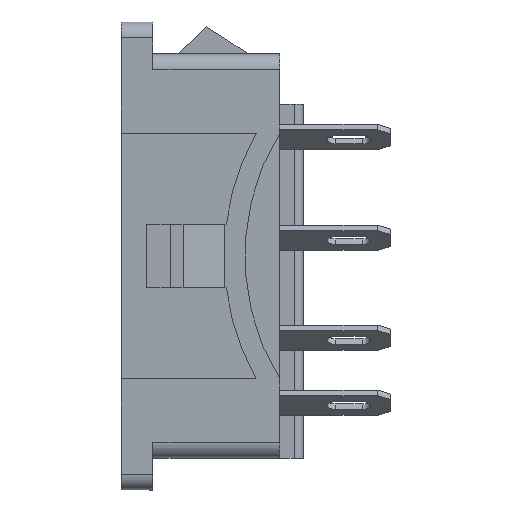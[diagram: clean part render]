
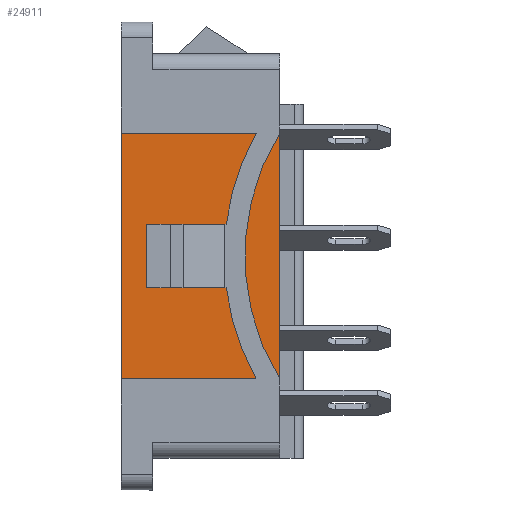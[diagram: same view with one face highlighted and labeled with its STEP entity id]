
A CAD part, front view. The second image highlights one B-rep face of the part: STEP entity #24911.
In plain terms, the highlighted planar face has unit normal (0, -1, 0).
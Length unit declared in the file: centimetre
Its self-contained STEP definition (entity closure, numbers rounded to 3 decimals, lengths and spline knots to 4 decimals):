
#2065=FACE_OUTER_BOUND('',#3265,.T.);
#3265=EDGE_LOOP('',(#21799,#21800,#21801,#21802));
#3575=LINE('',#33296,#6727);
#6173=LINE('',#39216,#9325);
#6303=LINE('',#39486,#9455);
#6344=LINE('',#39577,#9496);
#6727=VECTOR('',#26849,1.55);
#9325=VECTOR('',#32071,1.55);
#9455=VECTOR('',#32245,1.);
#9496=VECTOR('',#32336,1.);
#9872=VERTEX_POINT('',#33293);
#9873=VERTEX_POINT('',#33295);
#11882=VERTEX_POINT('',#39213);
#11883=VERTEX_POINT('',#39215);
#12240=EDGE_CURVE('',#9872,#9873,#3575,.T.);
#15247=EDGE_CURVE('',#11882,#11883,#6173,.T.);
#15383=EDGE_CURVE('',#11882,#9873,#6303,.T.);
#15430=EDGE_CURVE('',#11883,#9872,#6344,.T.);
#21799=ORIENTED_EDGE('',*,*,#12240,.F.);
#21800=ORIENTED_EDGE('',*,*,#15430,.F.);
#21801=ORIENTED_EDGE('',*,*,#15247,.F.);
#21802=ORIENTED_EDGE('',*,*,#15383,.T.);
#23779=PLANE('',#26495);
#24911=ADVANCED_FACE('',(#2065),#23779,.F.);
#26495=AXIS2_PLACEMENT_3D('',#39590,#32351,#32352);
#26849=DIRECTION('',(0.,0.,-1.));
#32071=DIRECTION('',(0.,0.,1.));
#32245=DIRECTION('',(1.,0.,0.));
#32336=DIRECTION('',(1.,0.,0.));
#32351=DIRECTION('center_axis',(0.,1.,0.));
#32352=DIRECTION('ref_axis',(0.,0.,
-1.));
#33293=CARTESIAN_POINT('',(1.,0.,2.05));
#33295=CARTESIAN_POINT('',(1.,0.,0.5));
#33296=CARTESIAN_POINT('',(1.,0.,1.75));
#39213=CARTESIAN_POINT('',(0.,0.,0.5));
#39215=CARTESIAN_POINT('',(0.,0.,2.05));
#39216=CARTESIAN_POINT('',(0.,0.,0.8875));
#39486=CARTESIAN_POINT('',(0.,0.,0.5));
#39577=CARTESIAN_POINT('',(0.,0.,2.05));
#39590=CARTESIAN_POINT('Origin',(1.15,0.,1.375));
